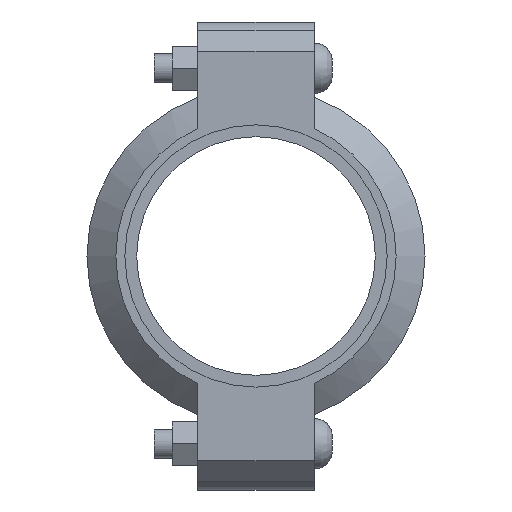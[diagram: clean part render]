
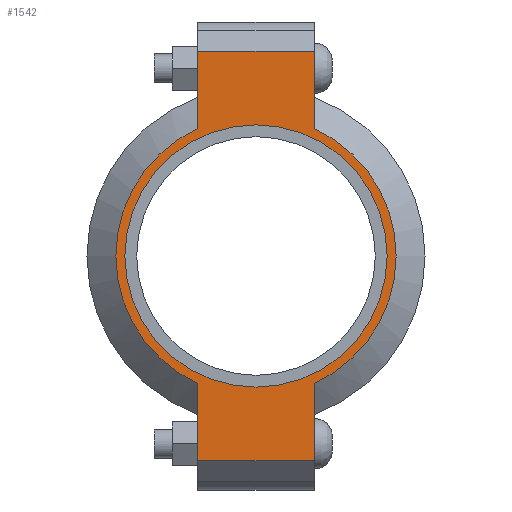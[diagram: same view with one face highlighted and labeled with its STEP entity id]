
A CAD part, left-side view. The second image highlights one B-rep face of the part: STEP entity #1542.
In plain terms, the highlighted planar face has unit normal (-1, 0, 0) as drawn and (0, 0, 1) by its records, which use the part's own axes.
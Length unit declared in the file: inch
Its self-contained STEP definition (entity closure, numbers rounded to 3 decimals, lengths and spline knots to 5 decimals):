
#166=LINE('',#2691,#259);
#174=LINE('',#2727,#267);
#181=LINE('',#2748,#274);
#190=LINE('',#2780,#283);
#191=LINE('',#2784,#284);
#192=LINE('',#2786,#285);
#259=VECTOR('',#2195,0.3937);
#267=VECTOR('',#2211,0.3937);
#274=VECTOR('',#2230,0.3937);
#283=VECTOR('',#2255,0.3937);
#284=VECTOR('',#2260,0.3937);
#285=VECTOR('',#2261,0.3937);
#341=FACE_BOUND('',#519,.T.);
#413=FACE_OUTER_BOUND('',#518,.T.);
#518=EDGE_LOOP('',(#1283,#1284,#1285,#1286,#1287,#1288,#1289,#1290));
#519=EDGE_LOOP('',(#1291));
#591=CIRCLE('',#1761,2.25);
#617=CIRCLE('',#1820,2.405);
#618=CIRCLE('',#1821,2.405);
#683=VERTEX_POINT('',#2507);
#726=VERTEX_POINT('',#2688);
#727=VERTEX_POINT('',#2690);
#738=VERTEX_POINT('',#2722);
#739=VERTEX_POINT('',#2726);
#746=VERTEX_POINT('',#2745);
#747=VERTEX_POINT('',#2747);
#757=VERTEX_POINT('',#2783);
#758=VERTEX_POINT('',#2785);
#839=EDGE_CURVE('',#683,#683,#591,.T.);
#900=EDGE_CURVE('',#727,#726,#166,.T.);
#914=EDGE_CURVE('',#739,#738,#174,.T.);
#924=EDGE_CURVE('',#747,#746,#181,.T.);
#939=EDGE_CURVE('',#739,#726,#190,.T.);
#940=EDGE_CURVE('',#738,#747,#617,.T.);
#941=EDGE_CURVE('',#757,#746,#191,.T.);
#942=EDGE_CURVE('',#757,#758,#192,.T.);
#943=EDGE_CURVE('',#758,#727,#618,.T.);
#1283=ORIENTED_EDGE('',*,*,#939,.F.);
#1284=ORIENTED_EDGE('',*,*,#914,.T.);
#1285=ORIENTED_EDGE('',*,*,#940,.T.);
#1286=ORIENTED_EDGE('',*,*,#924,.T.);
#1287=ORIENTED_EDGE('',*,*,#941,.F.);
#1288=ORIENTED_EDGE('',*,*,#942,.T.);
#1289=ORIENTED_EDGE('',*,*,#943,.T.);
#1290=ORIENTED_EDGE('',*,*,#900,.T.);
#1291=ORIENTED_EDGE('',*,*,#839,.T.);
#1384=PLANE('',#1819);
#1542=ADVANCED_FACE('',(#413,#341),#1384,.T.);
#1761=AXIS2_PLACEMENT_3D('',#2509,#2071,#2072);
#1819=AXIS2_PLACEMENT_3D('',#2781,#2256,#2257);
#1820=AXIS2_PLACEMENT_3D('',#2782,#2258,#2259);
#1821=AXIS2_PLACEMENT_3D('',#2787,#2262,#2263);
#2071=DIRECTION('center_axis',(0.,0.,-1.));
#2072=DIRECTION('ref_axis',(-1.,0.,0.));
#2195=DIRECTION('',(-1.,0.,0.));
#2211=DIRECTION('',(1.,0.,0.));
#2230=DIRECTION('',(1.,0.,0.));
#2255=DIRECTION('',(0.,1.,0.));
#2256=DIRECTION('center_axis',(0.,0.,1.));
#2257=DIRECTION('ref_axis',(1.,0.,0.));
#2258=DIRECTION('center_axis',(0.,0.,1.));
#2259=DIRECTION('ref_axis',(-1.,0.,0.));
#2260=DIRECTION('',(0.,-1.,0.));
#2261=DIRECTION('',(-1.,0.,0.));
#2262=DIRECTION('center_axis',(0.,0.,1.));
#2263=DIRECTION('ref_axis',(-1.,0.,0.));
#2507=CARTESIAN_POINT('',(2.25,0.,1.065));
#2509=CARTESIAN_POINT('Origin',(0.,0.,1.065));
#2688=CARTESIAN_POINT('',(-3.515,1.,1.065));
#2690=CARTESIAN_POINT('',(-2.18724,1.,1.065));
#2691=CARTESIAN_POINT('',(-4.015,1.,1.065));
#2722=CARTESIAN_POINT('',(-2.18724,-1.,1.065));
#2726=CARTESIAN_POINT('',(-3.515,-1.,1.065));
#2727=CARTESIAN_POINT('',(4.015,-1.,1.065));
#2745=CARTESIAN_POINT('',(3.515,-1.,1.065));
#2747=CARTESIAN_POINT('',(2.18724,-1.,1.065));
#2748=CARTESIAN_POINT('',(4.015,-1.,1.065));
#2780=CARTESIAN_POINT('',(-3.515,0.5,1.065));
#2781=CARTESIAN_POINT('Origin',(0.,0.,1.065));
#2782=CARTESIAN_POINT('Origin',(0.,0.,1.065));
#2783=CARTESIAN_POINT('',(3.515,1.,1.065));
#2784=CARTESIAN_POINT('',(3.515,-0.5,1.065));
#2785=CARTESIAN_POINT('',(2.18724,1.,1.065));
#2786=CARTESIAN_POINT('',(-4.015,1.,1.065));
#2787=CARTESIAN_POINT('Origin',(0.,0.,1.065));
